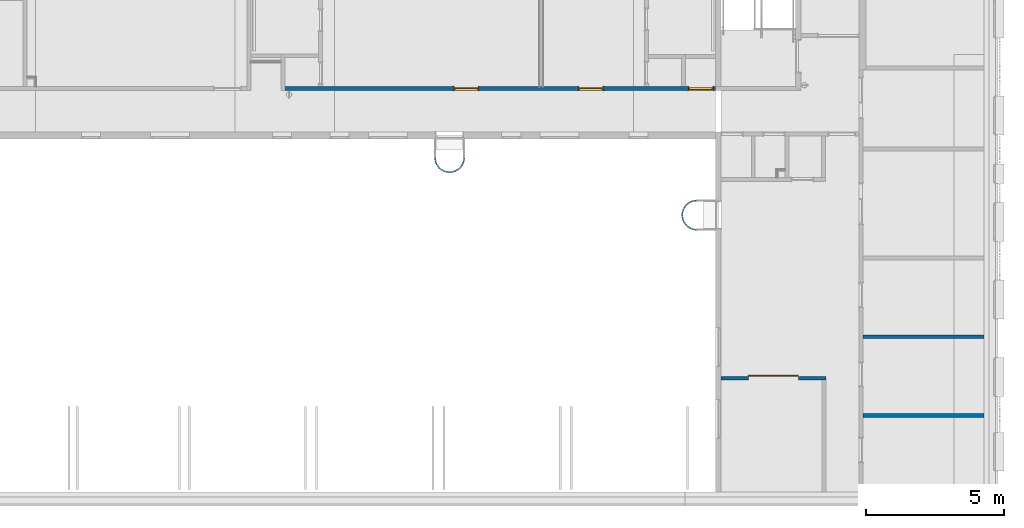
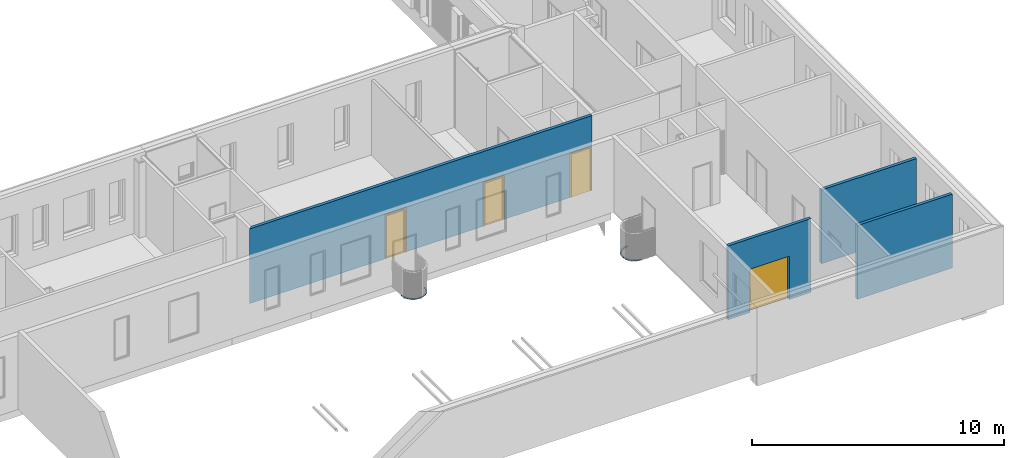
# One storey, part 8 of 100: 6 walls, 4 doors, 4 openings.
"""IFC2X3 building model written with IfcOpenShell, lengths in millimetres."""

from ifc_helpers import new_model, entity, si_unit, converted_unit, derived_unit, money_unit, point, direction, frame, frame_2d, origin_with_axes, origin_2d_with_axis, place, context, subcontext, project, spatial, polyline, circle_curve, parameter, trimmed, segment, composite_curve, rectangle, outline, extrude, faceted_brep, source, transform, mapped, material, layer, layer_set, layer_usage, type_object, element, fill, save


model = new_model("IFC2X3")

# Units and contexts
model_context = context("Model", 3, precision=0.01, world=origin_with_axes(), true_north=direction((0.0, 1.0)))
body_context = subcontext(model_context, "Body", "Model", "MODEL_VIEW")
ifc_project = project(units=[si_unit("LENGTHUNIT", "METRE", prefix="MILLI"), si_unit("AREAUNIT", "SQUARE_METRE"), si_unit("VOLUMEUNIT", "CUBIC_METRE"), converted_unit("PLANEANGLEUNIT", "DEGREE", entity("IfcPlaneAngleMeasure", 0.0174532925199), si_unit("PLANEANGLEUNIT", "RADIAN"), dimensions=[0, 0, 0, 0, 0, 0, 0]), si_unit("SOLIDANGLEUNIT", "STERADIAN"), money_unit("EUR"), converted_unit("TIMEUNIT", "Year", entity("IfcTimeMeasure", 31556926.0), si_unit("TIMEUNIT", "SECOND"), dimensions=[0, 0, 1, 0, 0, 0, 0]), si_unit("MASSUNIT", "GRAM", prefix="KILO"), si_unit("THERMODYNAMICTEMPERATUREUNIT", "DEGREE_CELSIUS"), si_unit("LUMINOUSINTENSITYUNIT", "LUMEN"), si_unit("ENERGYUNIT", "JOULE", prefix="MEGA"), derived_unit("THERMALCONDUCTANCEUNIT", [(si_unit("POWERUNIT", "WATT"), 1), (si_unit("LENGTHUNIT", "METRE"), -1), (si_unit("THERMODYNAMICTEMPERATUREUNIT", "KELVIN"), -1)]), derived_unit("SPECIFICHEATCAPACITYUNIT", [(si_unit("ENERGYUNIT", "JOULE"), 1), (si_unit("MASSUNIT", "GRAM", prefix="KILO"), -1), (si_unit("THERMODYNAMICTEMPERATUREUNIT", "KELVIN"), -1)]), derived_unit("MASSDENSITYUNIT", [(si_unit("MASSUNIT", "GRAM", prefix="KILO"), 1), (si_unit("VOLUMEUNIT", "CUBIC_METRE"), -1)])], contexts=[model_context])

# Site, building, storey
site_placement = place(None, origin_with_axes())
site = spatial("IfcSite", under=ifc_project, at=site_placement, Name="Politse- ja Piirivalveameti ning Päästeameti ühishoone", CompositionType="ELEMENT")
building_placement = place(site_placement, origin_with_axes())
building = spatial("IfcBuilding", under=site, at=building_placement, Name="Politse- ja Piirivalveameti ning Päästeameti ühishoone", CompositionType="ELEMENT")
storey_placement = place(building_placement, frame((0.0, 0.0, 3800.0), z_axis=(0.0, 0.0, 1.0), x_axis=(1.0, 0.0, 0.0)))
storey = spatial("IfcBuildingStorey", under=building, at=storey_placement, Name="Teine korrus", CompositionType="ELEMENT", Elevation=3800.0)

# Walls
ifc_material_1 = material(Name="KON-05_Betoon Plokk - Konstuktsioon")
ifc_layer_1 = layer(ifc_material_1, 140.0, ventilated="UNKNOWN")
ifc_layer_set_1 = layer_set([ifc_layer_1], Name="SS-02_Sisesein 140")
ifc_layer_usage_1 = layer_usage(ifc_layer_set_1, "AXIS2", "NEGATIVE", 70.0)
wall_type_1 = type_object("IfcWallType", Name="SS-02_Sisesein 140 140", PredefinedType="NOTDEFINED")
wall_1_placement = place(storey_placement, frame((69660.5664257, 5610.0, 0.0), z_axis=(0.0, 0.0, 1.0), x_axis=(-1.0, 0.0, 0.0)))
element("IfcWallStandardCase", 1, at=wall_1_placement, inside=storey, type_object=wall_type_1, material=ifc_layer_usage_1, Name="SS-02", context=body_context, shape_type="SweptSolid", body=[
    extrude(outline(polyline([(0.0, -70.0), (4360.006875, -70.0), (4360.006875, 70.0), (0.0, 70.0), (0.0, -70.0)])), origin_with_axes(), (0.0, 0.0, 1.0), 3575.0),
])
ifc_layer_usage_2 = layer_usage(ifc_layer_set_1, "AXIS2", "NEGATIVE", 70.0)
wall_2_placement = place(storey_placement, frame((69660.5664257, 2770.0, 0.0), z_axis=(0.0, 0.0, 1.0), x_axis=(-1.0, 0.0, 0.0)))
element("IfcWallStandardCase", 2, at=wall_2_placement, inside=storey, type_object=wall_type_1, material=ifc_layer_usage_2, Name="SS-02", context=body_context, shape_type="SweptSolid", body=[
    extrude(outline(polyline([(0.0, -70.0), (4360.006875, -70.0), (4360.006875, 70.0), (0.0, 70.0), (0.0, -70.0)])), origin_with_axes(), (0.0, 0.0, 1.0), 3575.0),
])

# Wall, opening, door
ifc_layer_usage_3 = layer_usage(ifc_layer_set_1, "AXIS2", "NEGATIVE", 0.0)
wall_3_placement = place(storey_placement, frame((63960.5595507, 4040.01986111, 0.0), z_axis=(0.0, 0.0, 1.0), x_axis=(-1.0, 0.0, 0.0)))
wall_3 = element("IfcWallStandardCase", 3, at=wall_3_placement, inside=storey, type_object=wall_type_1, material=ifc_layer_usage_3, Name="SS-02", context=body_context, shape_type="SweptSolid", body=[
    extrude(outline(polyline([(0.0, -140.0), (3800.00763889, -140.0), (3800.00763889, 0.0), (0.0, 0.0), (0.0, -140.0)])), origin_with_axes(), (0.0, 0.0, 1.0), 3575.0),
])
opening_1_placement = place(wall_3_placement, frame((1900.00763889, 0.0, 0.0), z_axis=(0.0, 0.0, 1.0), x_axis=(1.0, 0.0, 0.0)))
opening_1 = element("IfcOpeningElement", 4, at=opening_1_placement, cuts=wall_3, Name="LU-01", context=body_context, shape_type="SweptSolid", body=[
    extrude(rectangle(XDim=1800.0, YDim=2100.0, at=origin_2d_with_axis()), frame((0.0, 140.0, 1050.0), z_axis=(0.0, 1.0, 0.0), x_axis=(1.0, 0.0, 0.0)), (0.0, 0.0, -1.0), 420.0),
])
door_style_1 = type_object("IfcDoorStyle", Name="Exterior Double Sliding Door 23", ConstructionType="NOTDEFINED", OperationType="DOUBLE_DOOR_SLIDING", ParameterTakesPrecedence=False, Sizeable=False)
door_1_placement = place(opening_1_placement, frame((900.0, 0.0, 0.0), z_axis=(0.0, 0.0, 1.0), x_axis=(-1.0, 0.0, 0.0)))
door_1 = element("IfcDoor", 5, at=door_1_placement, inside=storey, type_object=door_style_1, Name="LU-01", ObjectType="DOOR", OverallHeight=2100.0, OverallWidth=1800.0, context=body_context, shape_type="Brep", body=[
    faceted_brep([(0.0, 185.0, 0.0), (900.0, 185.0, 0.0), (900.0, 145.0, 0.0), (0.0, 145.0, 0.0), (0.0, 185.0, 2100.0), (900.0, 185.0, 2100.0), (900.0, 145.0, 2100.0), (0.0, 145.0, 2100.0)], [[[0, 1, 2, 3]], [[0, 4, 5, 1]], [[1, 5, 6, 2]], [[3, 2, 6, 7]], [[4, 0, 3, 7]], [[5, 4, 7, 6]]]),
    faceted_brep([(1800.0, 185.0, 0.0), (1800.0, 145.0, 0.0), (900.0, 145.0, 0.0), (900.0, 185.0, 0.0), (1800.0, 185.0, 2100.0), (1800.0, 145.0, 2100.0), (900.0, 145.0, 2100.0), (900.0, 185.0, 2100.0)], [[[0, 1, 2, 3]], [[4, 5, 1, 0]], [[1, 5, 6, 2]], [[3, 2, 6, 7]], [[0, 3, 7, 4]], [[7, 6, 5, 4]]]),
])
fill(opening_1, door_1)

# Wall, openings, doors
ifc_layer_usage_4 = layer_usage(ifc_layer_set_1, "AXIS2", "NEGATIVE", 140.0)
wall_4_placement = place(storey_placement, frame((44410.4965988, 14500.0421528, 0.0), z_axis=(0.0, 0.0, 1.0), x_axis=(1.0, 0.0, 0.0)))
wall_4 = element("IfcWallStandardCase", 6, at=wall_4_placement, inside=storey, type_object=wall_type_1, material=ifc_layer_usage_4, Name="SS-02", context=body_context, shape_type="SweptSolid", body=[
    extrude(outline(polyline([(-140.0, 0.0), (15560.055313, 0.0), (15560.055313, 140.0), (0.0, 140.0), (-140.0, 0.0)])), origin_with_axes(), (0.0, 0.0, 1.0), 3620.0),
])
opening_2_placement = place(wall_4_placement, frame((6553.51671905, 0.0, 0.0), z_axis=(0.0, 0.0, 1.0), x_axis=(1.0, 0.0, 0.0)))
opening_2 = element("IfcOpeningElement", 7, at=opening_2_placement, cuts=wall_4, Name="TU-01-10", context=body_context, shape_type="SweptSolid", body=[
    extrude(rectangle(XDim=900.0, YDim=2100.0, at=origin_2d_with_axis()), frame((0.0, 140.0, 1050.0), z_axis=(0.0, -1.0, 0.0), x_axis=(1.0, 0.0, 0.0)), (0.0, 0.0, 1.0), 420.0),
    extrude(rectangle(XDim=974.0, YDim=2137.0, at=origin_2d_with_axis()), frame((0.0, 140.0, 1068.5), z_axis=(0.0, -1.0, 0.0), x_axis=(1.0, 0.0, 0.0)), (0.0, 0.0, -1.0), 140.0),
    extrude(rectangle(XDim=974.0, YDim=2137.0, at=origin_2d_with_axis()), frame((0.0, 0.0, 1068.5), z_axis=(0.0, 1.0, 0.0), x_axis=(1.0, 0.0, 0.0)), (0.0, 0.0, -1.0), 140.0),
])
opening_3_placement = place(wall_4_placement, frame((11053.1972086, 0.0, 0.0), z_axis=(0.0, 0.0, 1.0), x_axis=(1.0, 0.0, 0.0)))
opening_3 = element("IfcOpeningElement", 8, at=opening_3_placement, cuts=wall_4, Name="TU-01-10", context=body_context, shape_type="SweptSolid", body=[
    extrude(rectangle(XDim=900.0, YDim=2100.0, at=origin_2d_with_axis()), frame((0.0, 140.0, 1050.0), z_axis=(0.0, -1.0, 0.0), x_axis=(1.0, 0.0, 0.0)), (0.0, 0.0, 1.0), 420.0),
    extrude(rectangle(XDim=974.0, YDim=2137.0, at=origin_2d_with_axis()), frame((0.0, 140.0, 1068.5), z_axis=(0.0, -1.0, 0.0), x_axis=(1.0, 0.0, 0.0)), (0.0, 0.0, -1.0), 140.0),
    extrude(rectangle(XDim=974.0, YDim=2137.0, at=origin_2d_with_axis()), frame((0.0, 0.0, 1068.5), z_axis=(0.0, 1.0, 0.0), x_axis=(1.0, 0.0, 0.0)), (0.0, 0.0, -1.0), 140.0),
])
opening_4_placement = place(wall_4_placement, frame((15025.7741705, 0.0, 0.0), z_axis=(0.0, 0.0, 1.0), x_axis=(1.0, 0.0, 0.0)))
opening_4 = element("IfcOpeningElement", 9, at=opening_4_placement, cuts=wall_4, Name="SU-01-1", context=body_context, shape_type="SweptSolid", body=[
    extrude(rectangle(XDim=900.0, YDim=2100.0, at=origin_2d_with_axis()), frame((0.0, 140.0, 1050.0), z_axis=(0.0, 1.0, 0.0), x_axis=(1.0, 0.0, 0.0)), (0.0, 0.0, -1.0), 420.0),
    extrude(rectangle(XDim=974.0, YDim=2137.0, at=origin_2d_with_axis()), frame((0.0, 140.0, 1068.5), z_axis=(0.0, 1.0, 0.0), x_axis=(1.0, 0.0, 0.0)), (0.0, 0.0, 1.0), 140.0),
    extrude(rectangle(XDim=974.0, YDim=2137.0, at=origin_2d_with_axis()), frame((0.0, 0.0, 1068.5), z_axis=(0.0, -1.0, 0.0), x_axis=(1.0, 0.0, 0.0)), (0.0, 0.0, 1.0), 140.0),
])
door_style_2 = type_object("IfcDoorStyle", Name="Door 23", ConstructionType="NOTDEFINED", OperationType="SINGLE_SWING_LEFT", ParameterTakesPrecedence=False, Sizeable=False)
shared_shape_1 = source(origin_with_axes(), body_context, "Body", "Brep", [
    faceted_brep([(-422.0, -40.0, 0.0), (-410.0, -40.0, 0.0), (-410.0, -40.0, 12.0), (-422.0, -40.0, 12.0), (422.0, -40.0, 0.0), (410.0, -40.0, 0.0), (410.0, -115.0, 0.0), (-410.0, -115.0, 0.0), (-410.0, -115.0, 12.0), (410.0, -115.0, 12.0), (410.0, -40.0, 12.0), (422.0, -40.0, 12.0)], [[[0, 1, 2, 3]], [[0, 4, 5, 6, 7, 1]], [[1, 7, 8, 2]], [[3, 2, 8, 9, 10, 11]], [[4, 0, 3, 11]], [[5, 4, 11, 10]], [[6, 5, 10, 9]], [[7, 6, 9, 8]]]),
    faceted_brep([(450.0, -115.0, 0.0), (450.0, -140.0, 0.0), (425.0, -140.0, 0.0), (425.0, -115.0, 0.0), (450.0, -115.0, 2100.0), (450.0, -140.0, 2100.0), (425.0, -140.0, 2075.0), (425.0, -115.0, 2075.0)], [[[0, 1, 2, 3]], [[4, 5, 1, 0]], [[1, 5, 6, 2]], [[3, 2, 6, 7]], [[0, 3, 7, 4]], [[7, 6, 5, 4]]]),
    faceted_brep([(-450.0, -115.0, 2100.0), (-450.0, -140.0, 2100.0), (-425.0, -140.0, 2075.0), (-425.0, -115.0, 2075.0), (-450.0, -115.0, 0.0), (-450.0, -140.0, 0.0), (-425.0, -140.0, 0.0), (-425.0, -115.0, 0.0)], [[[0, 1, 2, 3]], [[4, 5, 1, 0]], [[1, 5, 6, 2]], [[3, 2, 6, 7]], [[0, 3, 7, 4]], [[7, 6, 5, 4]]]),
    faceted_brep([(425.0, -115.0, 2075.0), (425.0, -140.0, 2075.0), (-425.0, -140.0, 2075.0), (-425.0, -115.0, 2075.0), (450.0, -115.0, 2100.0), (450.0, -140.0, 2100.0), (-450.0, -140.0, 2100.0), (-450.0, -115.0, 2100.0)], [[[0, 1, 2, 3]], [[4, 5, 1, 0]], [[1, 5, 6, 2]], [[3, 2, 6, 7]], [[0, 3, 7, 4]], [[7, 6, 5, 4]]]),
    faceted_brep([(487.0, -159.0, 0.0), (437.0, -159.0, 0.0), (437.0, -140.0, 0.0), (487.0, -140.0, 0.0), (487.0, -159.0, 2137.0), (437.0, -159.0, 2087.0), (437.0, -140.0, 2087.0), (487.0, -140.0, 2137.0)], [[[0, 1, 2, 3]], [[0, 4, 5, 1]], [[1, 5, 6, 2]], [[3, 2, 6, 7]], [[4, 0, 3, 7]], [[5, 4, 7, 6]]]),
    faceted_brep([(-487.0, -159.0, 2137.0), (-437.0, -159.0, 2087.0), (-437.0, -140.0, 2087.0), (-487.0, -140.0, 2137.0), (-487.0, -159.0, 0.0), (-437.0, -159.0, 0.0), (-437.0, -140.0, 0.0), (-487.0, -140.0, 0.0)], [[[0, 1, 2, 3]], [[0, 4, 5, 1]], [[1, 5, 6, 2]], [[3, 2, 6, 7]], [[4, 0, 3, 7]], [[5, 4, 7, 6]]]),
    faceted_brep([(487.0, -159.0, 2137.0), (437.0, -159.0, 2087.0), (437.0, -140.0, 2087.0), (487.0, -140.0, 2137.0), (-487.0, -159.0, 2137.0), (-437.0, -159.0, 2087.0), (-437.0, -140.0, 2087.0), (-487.0, -140.0, 2137.0)], [[[0, 1, 2, 3]], [[0, 4, 5, 1]], [[1, 5, 6, 2]], [[3, 2, 6, 7]], [[4, 0, 3, 7]], [[5, 4, 7, 6]]]),
    faceted_brep([(487.0, 19.0, 0.0), (487.0, 0.0, 0.0), (437.0, 0.0, 0.0), (437.0, 19.0, 0.0), (487.0, 19.0, 2137.0), (487.0, 0.0, 2137.0), (437.0, 0.0, 2087.0), (437.0, 19.0, 2087.0)], [[[0, 1, 2, 3]], [[4, 5, 1, 0]], [[1, 5, 6, 2]], [[3, 2, 6, 7]], [[0, 3, 7, 4]], [[7, 6, 5, 4]]]),
    faceted_brep([(-487.0, 19.0, 2137.0), (-487.0, 0.0, 2137.0), (-437.0, 0.0, 2087.0), (-437.0, 19.0, 2087.0), (-487.0, 19.0, 0.0), (-487.0, 0.0, 0.0), (-437.0, 0.0, 0.0), (-437.0, 19.0, 0.0)], [[[0, 1, 2, 3]], [[4, 5, 1, 0]], [[1, 5, 6, 2]], [[3, 2, 6, 7]], [[0, 3, 7, 4]], [[7, 6, 5, 4]]]),
    faceted_brep([(487.0, 19.0, 2137.0), (487.0, 0.0, 2137.0), (437.0, 0.0, 2087.0), (437.0, 19.0, 2087.0), (-487.0, 19.0, 2137.0), (-487.0, 0.0, 2137.0), (-437.0, 0.0, 2087.0), (-437.0, 19.0, 2087.0)], [[[0, 1, 2, 3]], [[4, 5, 1, 0]], [[1, 5, 6, 2]], [[3, 2, 6, 7]], [[0, 3, 7, 4]], [[7, 6, 5, 4]]]),
    faceted_brep([(410.0, -40.0, 0.0), (410.0, -115.0, 0.0), (410.0, -115.0, 2060.0), (410.0, -40.0, 2060.0), (422.0, -40.0, 0.0), (422.0, 0.0, 0.0), (450.0, 0.0, 0.0), (450.0, -115.0, 0.0), (450.0, -115.0, 2060.0), (422.0, -40.0, 2060.0), (450.0, 0.0, 2060.0), (422.0, 0.0, 2060.0)], [[[0, 1, 2, 3]], [[4, 5, 6, 7, 1, 0]], [[1, 7, 8, 2]], [[9, 3, 2, 8, 10, 11]], [[9, 4, 0, 3]], [[11, 5, 4, 9]], [[11, 10, 6, 5]], [[6, 10, 8, 7]]]),
    faceted_brep([(-422.0, -40.0, 2060.0), (-422.0, 0.0, 2060.0), (-450.0, 0.0, 2060.0), (-450.0, -115.0, 2060.0), (-410.0, -115.0, 2060.0), (-410.0, -40.0, 2060.0), (-422.0, -40.0, 0.0), (-422.0, 0.0, 0.0), (-450.0, 0.0, 0.0), (-450.0, -115.0, 0.0), (-410.0, -115.0, 0.0), (-410.0, -40.0, 0.0)], [[[0, 1, 2, 3, 4, 5]], [[0, 6, 7, 1]], [[7, 8, 2, 1]], [[2, 8, 9, 3]], [[3, 9, 10, 4]], [[5, 4, 10, 11]], [[5, 11, 6, 0]], [[6, 11, 10, 9, 8, 7]]]),
    faceted_brep([(422.0, 0.0, 2072.0), (-422.0, 0.0, 2072.0), (-422.0, 0.0, 2060.0), (-450.0, 0.0, 2060.0), (-450.0, 0.0, 2100.0), (450.0, 0.0, 2100.0), (450.0, 0.0, 2060.0), (422.0, 0.0, 2060.0), (422.0, -40.0, 2072.0), (-422.0, -40.0, 2072.0), (-422.0, -40.0, 2060.0), (-410.0, -40.0, 2060.0), (-410.0, -115.0, 2060.0), (-450.0, -115.0, 2060.0), (-450.0, -115.0, 2100.0), (450.0, -115.0, 2100.0), (450.0, -115.0, 2060.0), (422.0, -40.0, 2060.0), (410.0, -115.0, 2060.0), (410.0, -40.0, 2060.0)], [[[0, 1, 2, 3, 4, 5, 6, 7]], [[0, 8, 9, 1]], [[1, 9, 10, 2]], [[10, 11, 12, 13, 3, 2]], [[4, 3, 13, 14]], [[5, 4, 14, 15]], [[6, 5, 15, 16]], [[17, 7, 6, 16, 18, 19]], [[7, 17, 8, 0]], [[10, 9, 8, 17, 19, 11]], [[19, 18, 12, 11]], [[12, 18, 16, 15, 14, 13]]]),
    faceted_brep([(-422.0, 0.0, 0.0), (422.0, 0.0, 0.0), (422.0, -40.0, 0.0), (-422.0, -40.0, 0.0), (-422.0, 0.0, 2072.0), (422.0, 0.0, 2072.0), (422.0, -40.0, 2072.0), (-422.0, -40.0, 2072.0)], [[[0, 1, 2, 3]], [[0, 4, 5, 1]], [[1, 5, 6, 2]], [[3, 2, 6, 7]], [[4, 0, 3, 7]], [[5, 4, 7, 6]]]),
])
door_2_placement = place(opening_4_placement, frame((450.0, 0.0, 0.0), z_axis=(0.0, 0.0, 1.0), x_axis=(-1.0, 0.0, 0.0)))
door_2 = element("IfcDoor", 10, at=door_2_placement, inside=storey, type_object=door_style_2, Name="SU-01-1", ObjectType="DOOR", OverallHeight=2100.0, OverallWidth=900.0, context=body_context, shape_type="MappedRepresentation", body=[
    mapped(shared_shape_1, transform((450.0, 0.0, 0.0))),
])
fill(opening_4, door_2)
door_style_3 = type_object("IfcDoorStyle", Name="Door 23", ConstructionType="NOTDEFINED", OperationType="SINGLE_SWING_RIGHT", ParameterTakesPrecedence=False, Sizeable=False)
shared_shape_2 = source(origin_with_axes(), body_context, "Body", "Brep", [
    faceted_brep([(410.0, -115.0, 0.0), (410.0, -40.0, 0.0), (410.0, -40.0, 12.0), (410.0, -115.0, 12.0), (-410.0, -115.0, 0.0), (-410.0, -40.0, 0.0), (-422.0, -40.0, 0.0), (422.0, -40.0, 0.0), (422.0, -40.0, 12.0), (-422.0, -40.0, 12.0), (-410.0, -40.0, 12.0), (-410.0, -115.0, 12.0)], [[[0, 1, 2, 3]], [[0, 4, 5, 6, 7, 1]], [[1, 7, 8, 2]], [[3, 2, 8, 9, 10, 11]], [[4, 0, 3, 11]], [[5, 4, 11, 10]], [[6, 5, 10, 9]], [[7, 6, 9, 8]]]),
    faceted_brep([(-450.0, 0.0, 0.0), (-450.0, 25.0, 0.0), (-425.0, 25.0, 0.0), (-425.0, 0.0, 0.0), (-450.0, 0.0, 2100.0), (-450.0, 25.0, 2100.0), (-425.0, 25.0, 2075.0), (-425.0, 0.0, 2075.0)], [[[0, 1, 2, 3]], [[4, 5, 1, 0]], [[1, 5, 6, 2]], [[3, 2, 6, 7]], [[0, 3, 7, 4]], [[7, 6, 5, 4]]]),
    faceted_brep([(450.0, 0.0, 2100.0), (450.0, 25.0, 2100.0), (425.0, 25.0, 2075.0), (425.0, 0.0, 2075.0), (450.0, 0.0, 0.0), (450.0, 25.0, 0.0), (425.0, 25.0, 0.0), (425.0, 0.0, 0.0)], [[[0, 1, 2, 3]], [[4, 5, 1, 0]], [[1, 5, 6, 2]], [[3, 2, 6, 7]], [[0, 3, 7, 4]], [[7, 6, 5, 4]]]),
    faceted_brep([(-425.0, 0.0, 2075.0), (-425.0, 25.0, 2075.0), (425.0, 25.0, 2075.0), (425.0, 0.0, 2075.0), (-450.0, 0.0, 2100.0), (-450.0, 25.0, 2100.0), (450.0, 25.0, 2100.0), (450.0, 0.0, 2100.0)], [[[0, 1, 2, 3]], [[4, 5, 1, 0]], [[1, 5, 6, 2]], [[3, 2, 6, 7]], [[0, 3, 7, 4]], [[7, 6, 5, 4]]]),
    faceted_brep([(-487.0, 44.0, 0.0), (-437.0, 44.0, 0.0), (-437.0, 25.0, 0.0), (-487.0, 25.0, 0.0), (-487.0, 44.0, 2137.0), (-437.0, 44.0, 2087.0), (-437.0, 25.0, 2087.0), (-487.0, 25.0, 2137.0)], [[[0, 1, 2, 3]], [[0, 4, 5, 1]], [[1, 5, 6, 2]], [[3, 2, 6, 7]], [[4, 0, 3, 7]], [[5, 4, 7, 6]]]),
    faceted_brep([(487.0, 44.0, 2137.0), (437.0, 44.0, 2087.0), (437.0, 25.0, 2087.0), (487.0, 25.0, 2137.0), (487.0, 44.0, 0.0), (437.0, 44.0, 0.0), (437.0, 25.0, 0.0), (487.0, 25.0, 0.0)], [[[0, 1, 2, 3]], [[0, 4, 5, 1]], [[1, 5, 6, 2]], [[3, 2, 6, 7]], [[4, 0, 3, 7]], [[5, 4, 7, 6]]]),
    faceted_brep([(-487.0, 44.0, 2137.0), (-437.0, 44.0, 2087.0), (-437.0, 25.0, 2087.0), (-487.0, 25.0, 2137.0), (487.0, 44.0, 2137.0), (437.0, 44.0, 2087.0), (437.0, 25.0, 2087.0), (487.0, 25.0, 2137.0)], [[[0, 1, 2, 3]], [[0, 4, 5, 1]], [[1, 5, 6, 2]], [[3, 2, 6, 7]], [[4, 0, 3, 7]], [[5, 4, 7, 6]]]),
    faceted_brep([(-487.0, -134.0, 0.0), (-487.0, -115.0, 0.0), (-437.0, -115.0, 0.0), (-437.0, -134.0, 0.0), (-487.0, -134.0, 2137.0), (-487.0, -115.0, 2137.0), (-437.0, -115.0, 2087.0), (-437.0, -134.0, 2087.0)], [[[0, 1, 2, 3]], [[4, 5, 1, 0]], [[1, 5, 6, 2]], [[3, 2, 6, 7]], [[0, 3, 7, 4]], [[7, 6, 5, 4]]]),
    faceted_brep([(487.0, -134.0, 2137.0), (487.0, -115.0, 2137.0), (437.0, -115.0, 2087.0), (437.0, -134.0, 2087.0), (487.0, -134.0, 0.0), (487.0, -115.0, 0.0), (437.0, -115.0, 0.0), (437.0, -134.0, 0.0)], [[[0, 1, 2, 3]], [[4, 5, 1, 0]], [[1, 5, 6, 2]], [[3, 2, 6, 7]], [[0, 3, 7, 4]], [[7, 6, 5, 4]]]),
    faceted_brep([(-487.0, -134.0, 2137.0), (-487.0, -115.0, 2137.0), (-437.0, -115.0, 2087.0), (-437.0, -134.0, 2087.0), (487.0, -134.0, 2137.0), (487.0, -115.0, 2137.0), (437.0, -115.0, 2087.0), (437.0, -134.0, 2087.0)], [[[0, 1, 2, 3]], [[4, 5, 1, 0]], [[1, 5, 6, 2]], [[3, 2, 6, 7]], [[0, 3, 7, 4]], [[7, 6, 5, 4]]]),
    faceted_brep([(-410.0, -40.0, 0.0), (-410.0, -40.0, 2060.0), (-410.0, -115.0, 2060.0), (-410.0, -115.0, 0.0), (-422.0, -40.0, 2060.0), (-422.0, -40.0, 0.0), (-422.0, 0.0, 2060.0), (-450.0, 0.0, 2060.0), (-450.0, -115.0, 2060.0), (-450.0, -115.0, 0.0), (-450.0, 0.0, 0.0), (-422.0, 0.0, 0.0)], [[[0, 1, 2, 3]], [[4, 1, 0, 5]], [[4, 6, 7, 8, 2, 1]], [[3, 2, 8, 9]], [[5, 0, 3, 9, 10, 11]], [[6, 4, 5, 11]], [[6, 11, 10, 7]], [[10, 9, 8, 7]]]),
    faceted_brep([(422.0, -40.0, 2060.0), (410.0, -40.0, 2060.0), (410.0, -115.0, 2060.0), (450.0, -115.0, 2060.0), (450.0, 0.0, 2060.0), (422.0, 0.0, 2060.0), (422.0, -40.0, 0.0), (410.0, -40.0, 0.0), (410.0, -115.0, 0.0), (450.0, -115.0, 0.0), (450.0, 0.0, 0.0), (422.0, 0.0, 0.0)], [[[0, 1, 2, 3, 4, 5]], [[1, 0, 6, 7]], [[1, 7, 8, 2]], [[3, 2, 8, 9]], [[4, 3, 9, 10]], [[11, 5, 4, 10]], [[0, 5, 11, 6]], [[6, 11, 10, 9, 8, 7]]]),
    faceted_brep([(-422.0, 0.0, 2072.0), (-422.0, 0.0, 2060.0), (-450.0, 0.0, 2060.0), (-450.0, 0.0, 2100.0), (450.0, 0.0, 2100.0), (450.0, 0.0, 2060.0), (422.0, 0.0, 2060.0), (422.0, 0.0, 2072.0), (-422.0, -40.0, 2072.0), (-422.0, -40.0, 2060.0), (-410.0, -40.0, 2060.0), (-410.0, -115.0, 2060.0), (-450.0, -115.0, 2060.0), (-450.0, -115.0, 2100.0), (450.0, -115.0, 2100.0), (450.0, -115.0, 2060.0), (422.0, -40.0, 2060.0), (410.0, -115.0, 2060.0), (410.0, -40.0, 2060.0), (422.0, -40.0, 2072.0)], [[[0, 1, 2, 3, 4, 5, 6, 7]], [[1, 0, 8, 9]], [[9, 10, 11, 12, 2, 1]], [[2, 12, 13, 3]], [[3, 13, 14, 4]], [[4, 14, 15, 5]], [[16, 6, 5, 15, 17, 18]], [[7, 6, 16, 19]], [[0, 7, 19, 8]], [[16, 18, 10, 9, 8, 19]], [[10, 18, 17, 11]], [[17, 15, 14, 13, 12, 11]]]),
    faceted_brep([(422.0, 0.0, 0.0), (422.0, -40.0, 0.0), (-422.0, -40.0, 0.0), (-422.0, 0.0, 0.0), (422.0, 0.0, 2072.0), (422.0, -40.0, 2072.0), (-422.0, -40.0, 2072.0), (-422.0, 0.0, 2072.0)], [[[0, 1, 2, 3]], [[4, 5, 1, 0]], [[1, 5, 6, 2]], [[3, 2, 6, 7]], [[0, 3, 7, 4]], [[7, 6, 5, 4]]]),
])
door_3_placement = place(opening_2_placement, frame((-450.0, 0.0, 0.0), z_axis=(0.0, 0.0, 1.0), x_axis=(1.0, 0.0, 0.0)))
door_3 = element("IfcDoor", 11, at=door_3_placement, inside=storey, type_object=door_style_3, Name="TU-01-10", ObjectType="DOOR", OverallHeight=2100.0, OverallWidth=900.0, context=body_context, shape_type="MappedRepresentation", body=[
    mapped(shared_shape_2, transform((450.0, 115.0, 0.0))),
])
fill(opening_2, door_3)
door_4_placement = place(opening_3_placement, frame((-450.0, 0.0, 0.0), z_axis=(0.0, 0.0, 1.0), x_axis=(1.0, 0.0, 0.0)))
door_4 = element("IfcDoor", 12, at=door_4_placement, inside=storey, type_object=door_style_3, Name="TU-01-10", ObjectType="DOOR", OverallHeight=2100.0, OverallWidth=900.0, context=body_context, shape_type="MappedRepresentation", body=[
    mapped(shared_shape_2, transform((450.0, 115.0, 0.0))),
])
fill(opening_3, door_4)

# Walls
ifc_material_2 = material(Name="ET-05_Teras")
ifc_layer_2 = layer(ifc_material_2, 50.0, ventilated="UNKNOWN")
ifc_layer_set_2 = layer_set([ifc_layer_2], Name="ET-05_Teras 50")
ifc_layer_usage_5 = layer_usage(ifc_layer_set_2, "AXIS2", "NEGATIVE", 0.0)
wall_type_2 = type_object("IfcWallType", Name="ET-05_Teras 50", PredefinedType="NOTDEFINED")
wall_5_placement = place(storey_placement, frame((49862.2674355, 12080.0187917, -63.7897243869), z_axis=(0.0, 0.0, 1.0), x_axis=(0.000514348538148, -0.999999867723, 0.0)))
element("IfcWallStandardCase", 13, at=wall_5_placement, inside=storey, type_object=wall_type_2, material=ifc_layer_usage_5, Name="SS-17", context=body_context, shape_type="SweptSolid", body=[
    extrude(outline(composite_curve([segment(trimmed(circle_curve(frame_2d((0.0, 500.760046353), x_axis=(0.0, -1.0)), 550.760046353), [point((0.0, -50.0)), parameter(0.0)], [point((3.08080801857, 1051.51147602)), parameter(179.679500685)], True, "CARTESIAN"), True, "CONTINUOUS"), segment(polyline([(3.08080801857, 1051.51147602), (2.80112106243, 1001.51225827)]), True, "CONTINUOUS"), segment(trimmed(circle_curve(frame_2d((0.0, 500.760046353), x_axis=(0.0, -1.0)), 500.760046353), [point((2.80112106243, 1001.51225827)), parameter(179.679500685)], [point((0.0, 0.0)), parameter(0.0)], False, "CARTESIAN"), True, "CONTINUOUS"), segment(polyline([(0.0, 0.0), (0.0, -50.0)]), True, "CONTINUOUS")], self_intersect=False)), origin_with_axes(), (0.0, 0.0, 1.0), 5.27072420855),
])
ifc_layer_usage_6 = layer_usage(ifc_layer_set_2, "AXIS2", "NEGATIVE", 0.0)
wall_6_placement = place(storey_placement, frame((59295.3799234, 10502.6421357, -63.7897243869), z_axis=(0.0, 0.0, 1.0), x_axis=(-0.999999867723, -0.000514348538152, 0.0)))
element("IfcWallStandardCase", 14, at=wall_6_placement, inside=storey, type_object=wall_type_2, material=ifc_layer_usage_6, Name="SS-17", context=body_context, shape_type="SweptSolid", body=[
    extrude(outline(composite_curve([segment(trimmed(circle_curve(frame_2d((0.0, 500.760046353), x_axis=(0.0, -1.0)), 550.760046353), [point((0.0, -50.0)), parameter(0.0)], [point((3.08080801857, 1051.51147602)), parameter(179.679500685)], True, "CARTESIAN"), True, "CONTINUOUS"), segment(polyline([(3.08080801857, 1051.51147602), (2.80112106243, 1001.51225827)]), True, "CONTINUOUS"), segment(trimmed(circle_curve(frame_2d((0.0, 500.760046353), x_axis=(0.0, -1.0)), 500.760046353), [point((2.80112106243, 1001.51225827)), parameter(179.679500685)], [point((0.0, 0.0)), parameter(0.0)], False, "CARTESIAN"), True, "CONTINUOUS"), segment(polyline([(0.0, 0.0), (0.0, -50.0)]), True, "CONTINUOUS")], self_intersect=False)), origin_with_axes(), (0.0, 0.0, 1.0), 4.78972438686),
])

save(model, "model.ifc")
